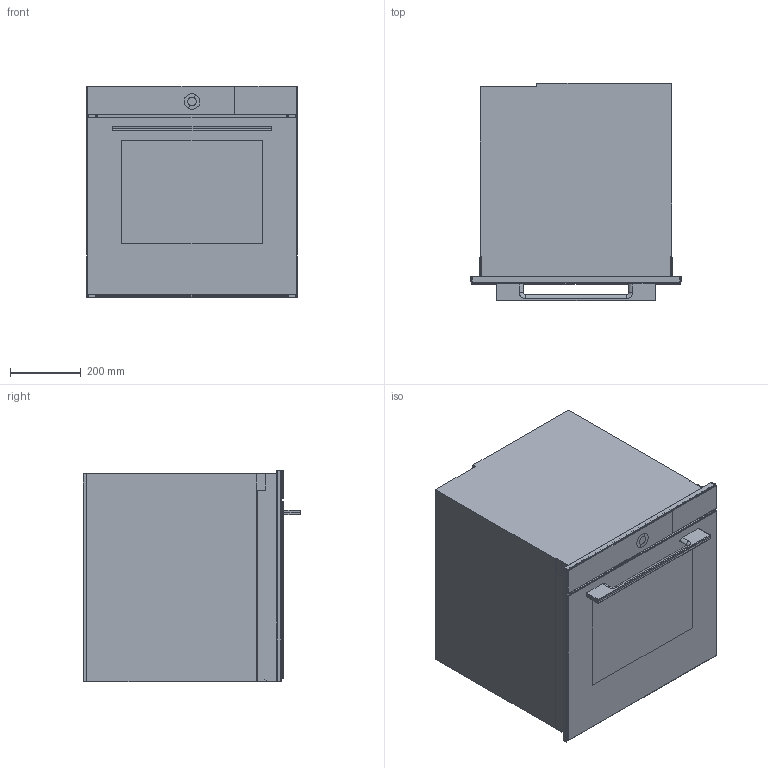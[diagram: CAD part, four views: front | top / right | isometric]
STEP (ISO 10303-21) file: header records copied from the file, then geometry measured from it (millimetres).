
FILE_DESCRIPTION(/* description */ (''),/* implementation_level */ '2;1');
FILE_NAME(/* name */ 'X2303600001',/* time_stamp */ '2020-10-26T10:54:13+01:00',/* author */ (''),/* organization */ (''),/* preprocessor_version */ 'ST-DEVELOPER v16.5',/* originating_system */ '',/* authorisation */ '');
FILE_SCHEMA (('AUTOMOTIVE_DESIGN'));
Length unit declared in the file: millimetre
Products named in the file (1): Document
Bounding box: 597 x 614.88 x 598.05 mm (x, y, z)
Volume: 169707525.2 mm3; surface area: 3823527.4 mm2
Topology: 13 solids, 13 shells, 348 faces, 837 edges, 500 vertices
Faces by surface type: plane 188, bspline 160
Entity records: 13461 total; most frequent: CARTESIAN_POINT 8216, ORIENTED_EDGE 1642, EDGE_CURVE 821, VERTEX_POINT 500, B_SPLINE_CURVE_WITH_KNOTS 484, EDGE_LOOP 355, ADVANCED_FACE 348, FACE_OUTER_BOUND 348
